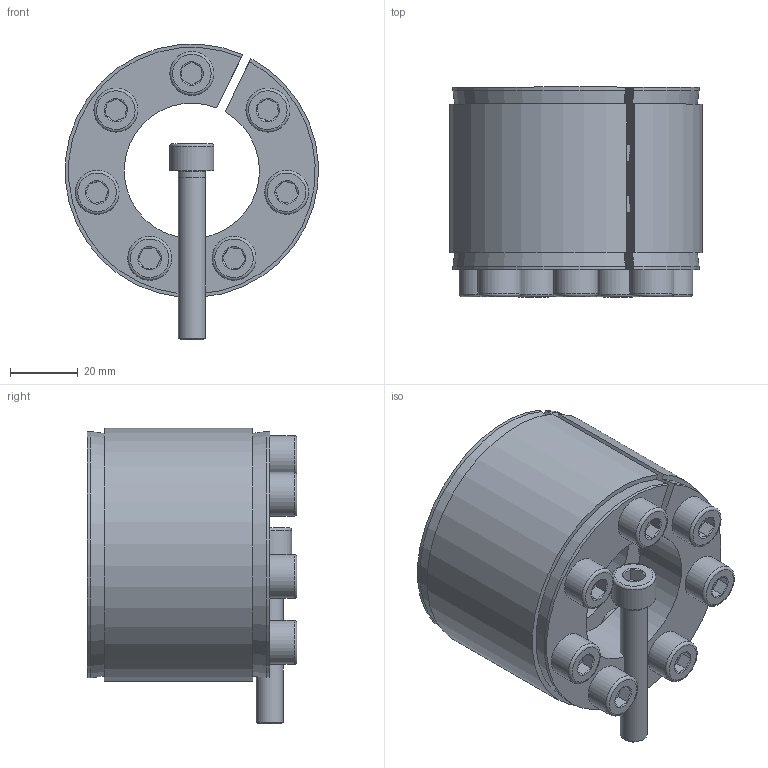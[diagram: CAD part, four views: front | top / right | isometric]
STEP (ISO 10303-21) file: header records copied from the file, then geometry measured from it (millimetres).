
FILE_DESCRIPTION( ( 'Unknown' ), '1' );
FILE_NAME( 'C:/Dokumente und Einstellungen/Sven/Desktop/homepage/cad - homepage/KBS11/KBS 11 - 40 x 75.stp', 'Unknown', ( 'Unknown' ), ( 'Unknown' ), 'XStep 1.0', 'Unknown', ' ' );
FILE_SCHEMA( ( 'automotive_design' ) );
Length unit declared in the file: millimetre
Products named in the file (3): Assem1; KBS 11 - 40 x 75; ISO EN DIN 4762 M8x50
Bounding box: 74.81 x 62 x 87.41 mm (x, y, z)
Volume: 280217.4 mm3; surface area: 101728.1 mm2
Topology: 10 solids, 10 shells, 282 faces, 606 edges, 376 vertices
Faces by surface type: plane 116, cylinder 86, cone 64, torus 16
Full cylindrical faces by diameter (mm): 7 x8, 8 x58, 13 x8
Entity records: 2342 total; most frequent: CARTESIAN_POINT 377, DIRECTION 344, ORIENTED_EDGE 262, AXIS2_PLACEMENT_3D 152, EDGE_LOOP 140, EDGE_CURVE 131, VERTEX_POINT 101, FACE_OUTER_BOUND 93
